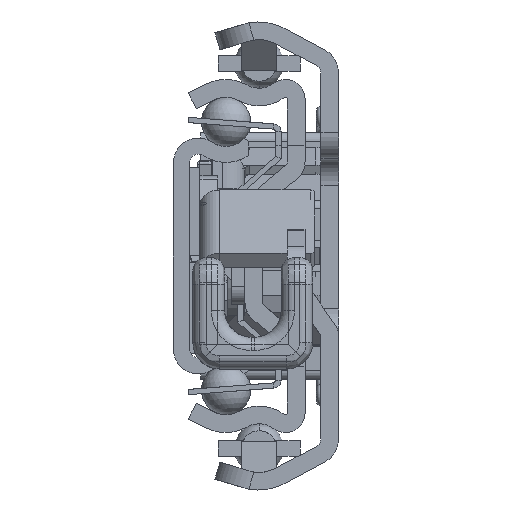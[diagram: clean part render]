
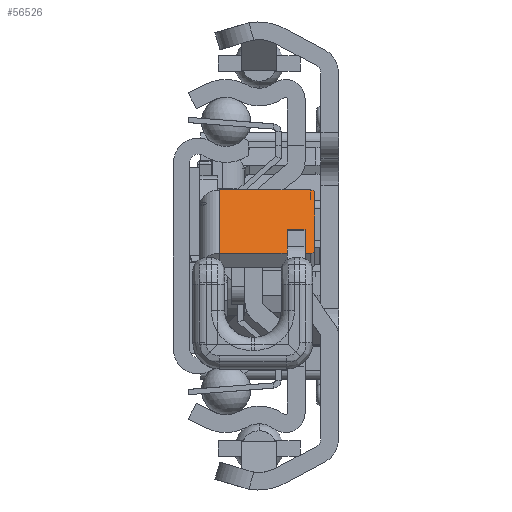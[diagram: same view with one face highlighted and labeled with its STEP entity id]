
A CAD part, left-side view. The second image highlights one B-rep face of the part: STEP entity #56526.
In plain terms, the highlighted planar face has unit normal (-0.597, 0, 0.802) as drawn and (-0.597, -0.802, 0) by its records, which use the part's own axes.
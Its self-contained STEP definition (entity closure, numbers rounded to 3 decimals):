
#55914=DIRECTION('',(0.802,-0.597,0.));
#55915=VECTOR('',#55914,12.);
#55916=CARTESIAN_POINT('',(31.957,-10.314,-0.2));
#55917=LINE('',#55916,#55915);
#55942=DIRECTION('',(0.,0.,1.));
#55943=VECTOR('',#55942,10.3);
#55944=CARTESIAN_POINT('',(41.586,-17.476,-10.5));
#55945=LINE('',#55944,#55943);
#55946=CARTESIAN_POINT('',(41.184,-17.178,-10.5));
#55947=DIRECTION('',(-0.597,-0.802,0.));
#55948=DIRECTION('',(0.,0.,-1.));
#55949=AXIS2_PLACEMENT_3D('',#55946,#55947,#55948);
#55951=DIRECTION('',(0.802,-0.597,0.));
#55952=VECTOR('',#55951,11.);
#55953=CARTESIAN_POINT('',(32.358,-10.613,-11.));
#55954=LINE('',#55953,#55952);
#55955=CARTESIAN_POINT('',(32.358,-10.613,-10.5));
#55956=DIRECTION('',(-0.597,-0.802,0.));
#55957=DIRECTION('',(-0.802,0.597,0.));
#55958=AXIS2_PLACEMENT_3D('',#55955,#55956,#55957);
#55960=DIRECTION('',(0.,0.,-1.));
#55961=VECTOR('',#55960,10.3);
#55962=CARTESIAN_POINT('',(31.957,-10.314,-0.2));
#55963=LINE('',#55962,#55961);
#56180=CARTESIAN_POINT('',(31.957,-10.314,-0.2));
#56181=CARTESIAN_POINT('',(41.586,-17.476,-0.2));
#56182=VERTEX_POINT('',#56180);
#56183=VERTEX_POINT('',#56181);
#56212=CARTESIAN_POINT('',(41.586,-17.476,-10.5));
#56213=VERTEX_POINT('',#56212);
#56214=CARTESIAN_POINT('',(32.358,-10.613,-11.));
#56215=CARTESIAN_POINT('',(41.184,-17.178,-11.));
#56216=VERTEX_POINT('',#56214);
#56217=VERTEX_POINT('',#56215);
#56218=CARTESIAN_POINT('',(31.957,-10.314,-10.5));
#56219=VERTEX_POINT('',#56218);
#56508=CARTESIAN_POINT('',(34.726,-12.374,2.));
#56509=DIRECTION('',(0.597,0.802,0.));
#56510=DIRECTION('',(0.802,-0.597,0.));
#56511=AXIS2_PLACEMENT_3D('',#56508,#56509,#56510);
#56512=PLANE('',#56511);
#56514=ORIENTED_EDGE('',*,*,#56513,.F.);
#56516=ORIENTED_EDGE('',*,*,#56515,.F.);
#56518=ORIENTED_EDGE('',*,*,#56517,.F.);
#56520=ORIENTED_EDGE('',*,*,#56519,.F.);
#56522=ORIENTED_EDGE('',*,*,#56521,.F.);
#56523=ORIENTED_EDGE('',*,*,#56495,.T.);
#56524=EDGE_LOOP('',(#56514,#56516,#56518,#56520,#56522,#56523));
#56525=FACE_OUTER_BOUND('',#56524,.F.);
#55950=CIRCLE('',#55949,0.5);
#55959=CIRCLE('',#55958,0.5);
#56495=EDGE_CURVE('',#56182,#56183,#55917,.T.);
#56513=EDGE_CURVE('',#56213,#56183,#55945,.T.);
#56515=EDGE_CURVE('',#56217,#56213,#55950,.T.);
#56517=EDGE_CURVE('',#56216,#56217,#55954,.T.);
#56519=EDGE_CURVE('',#56219,#56216,#55959,.T.);
#56521=EDGE_CURVE('',#56182,#56219,#55963,.T.);
#56526=ADVANCED_FACE('',(#56525),#56512,.F.);
